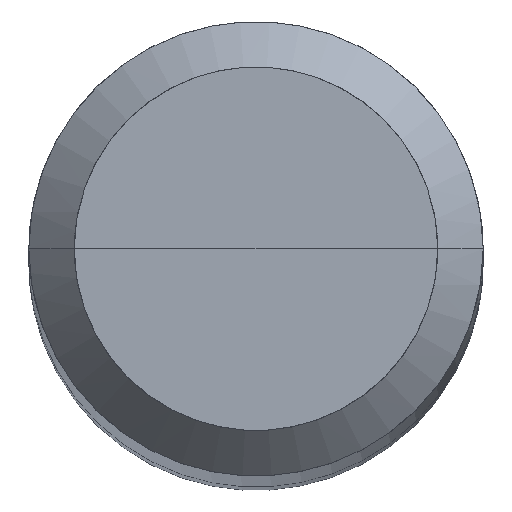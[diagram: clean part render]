
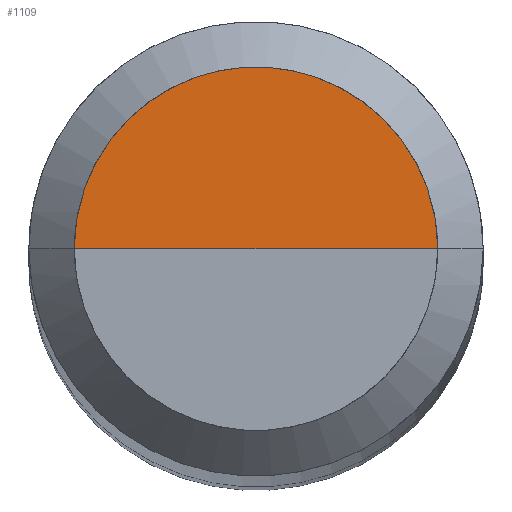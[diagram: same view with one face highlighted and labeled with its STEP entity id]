
A CAD part, top view. The second image highlights one B-rep face of the part: STEP entity #1109.
In plain terms, the highlighted free-form (B-spline) face has degree [1, 2] with [2, 5] control points.
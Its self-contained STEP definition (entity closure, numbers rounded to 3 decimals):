
#913=CARTESIAN_POINT('',(3.2,0.0,110.0));
#914=CARTESIAN_POINT('',(3.2,3.2,110.0));
#915=CARTESIAN_POINT('',(0.0,3.2,110.0));
#916=CARTESIAN_POINT('',(-3.2,3.2,110.0));
#917=CARTESIAN_POINT('',(-3.2,0.0,110.0));
#918=CARTESIAN_POINT('',(0.0,0.0,110.0));
#1094=(
BOUNDED_SURFACE()
B_SPLINE_SURFACE(1,2,(
(#913,#914,#915,#916,#917),
(#918,#918,#918,#918,#918)
), .UNSPECIFIED.,.F.,.F.,.F.)
B_SPLINE_SURFACE_WITH_KNOTS((2,2),(3,2,3),(
0.0,1.0),(
0.0,0.5,1.0), .UNSPECIFIED.)
GEOMETRIC_REPRESENTATION_ITEM()
RATIONAL_B_SPLINE_SURFACE(((1.0,0.707,1.0,0.707,1.0),
(1.0,0.707,1.0,0.707,1.0)
))
REPRESENTATION_ITEM('')
SURFACE()
);
#1095=(
BOUNDED_CURVE()
B_SPLINE_CURVE(2,(#917,#916,#915,#914,#913),.UNSPECIFIED.,.F.,.F.)
B_SPLINE_CURVE_WITH_KNOTS((3,2,3),
(0.0,0.5,1.0),.UNSPECIFIED.)
CURVE()
GEOMETRIC_REPRESENTATION_ITEM()
RATIONAL_B_SPLINE_CURVE((1.0,0.707,1.0,0.707,1.0))
REPRESENTATION_ITEM('')
);
#1096=(
BOUNDED_CURVE()
B_SPLINE_CURVE(1,(#913,#918),.UNSPECIFIED.,.F.,.F.)
B_SPLINE_CURVE_WITH_KNOTS((2,2),
(0.0,1.0),.UNSPECIFIED.)
CURVE()
GEOMETRIC_REPRESENTATION_ITEM()
RATIONAL_B_SPLINE_CURVE((1.0,1.0))
REPRESENTATION_ITEM('')
);
#1097=(
BOUNDED_CURVE()
B_SPLINE_CURVE(1,(#918,#917),.UNSPECIFIED.,.F.,.F.)
B_SPLINE_CURVE_WITH_KNOTS((2,2),
(0.0,1.0),.UNSPECIFIED.)
CURVE()
GEOMETRIC_REPRESENTATION_ITEM()
RATIONAL_B_SPLINE_CURVE((1.0,1.0))
REPRESENTATION_ITEM('')
);
#1098=VERTEX_POINT('',#913);
#1099=VERTEX_POINT('',#917);
#1100=VERTEX_POINT('',#918);
#1101=EDGE_CURVE('',#1099,#1098,#1095,.T.);
#1102=EDGE_CURVE('',#1098,#1100,#1096,.T.);
#1103=EDGE_CURVE('',#1100,#1099,#1097,.T.);
#1104=ORIENTED_EDGE('',*,*,#1101,.T.);
#1105=ORIENTED_EDGE('',*,*,#1102,.T.);
#1106=ORIENTED_EDGE('',*,*,#1103,.T.);
#1107=EDGE_LOOP('',(#1104,#1105,#1106));
#1108=FACE_OUTER_BOUND('',#1107,.T.);
#1109=ADVANCED_FACE('',(#1108),#1094,.T.);
